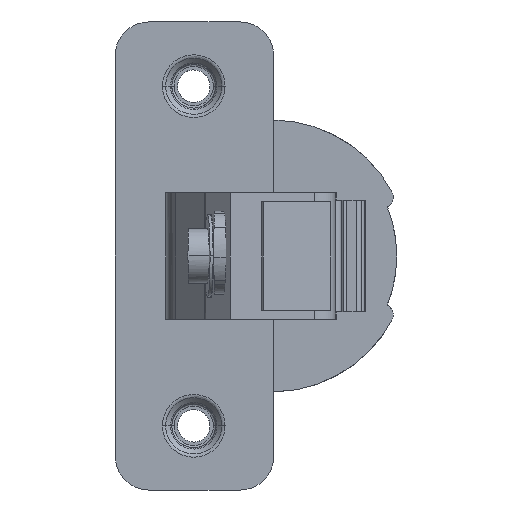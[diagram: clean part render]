
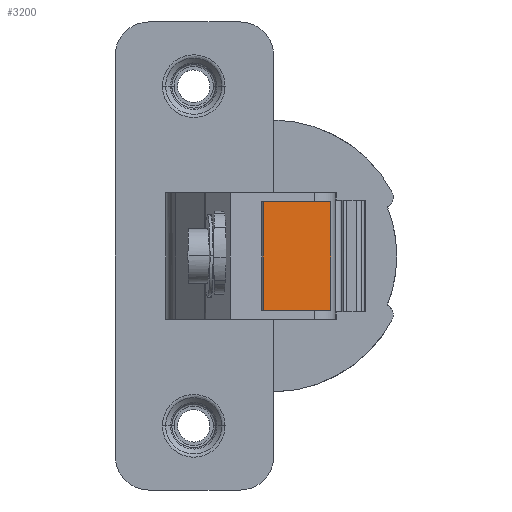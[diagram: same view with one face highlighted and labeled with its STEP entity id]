
A CAD part, left-side view. The second image highlights one B-rep face of the part: STEP entity #3200.
In plain terms, the highlighted planar face has unit normal (-0.994, -0.112, 0).
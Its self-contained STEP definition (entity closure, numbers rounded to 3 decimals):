
#128 = CARTESIAN_POINT ( 'NONE',  ( -32.741, 14.753, -7.2 ) ) ;
#235 = CARTESIAN_POINT ( 'NONE',  ( -31.739, 5.846, -2.4 ) ) ;
#332 = EDGE_CURVE ( 'NONE', #3905, #388, #3214, .T. ) ;
#388 = VERTEX_POINT ( 'NONE', #2730 ) ;
#527 = CARTESIAN_POINT ( 'NONE',  ( -32.741, 14.753, -2.4 ) ) ;
#645 = PLANE ( 'NONE',  #6585 ) ;
#704 = B_SPLINE_CURVE_WITH_KNOTS ( 'NONE', 3,
 ( #5759, #1566, #6817, #3659 ),
 .UNSPECIFIED., .F., .F.,
 ( 4, 4 ),
 ( 0., 1. ),
 .UNSPECIFIED. ) ;
#811 = CARTESIAN_POINT ( 'NONE',  ( -31.739, 5.846, 7.2 ) ) ;
#1064 = ORIENTED_EDGE ( 'NONE', *, *, #332, .T. ) ;
#1075 = ORIENTED_EDGE ( 'NONE', *, *, #1755, .T. ) ;
#1177 = DIRECTION ( 'NONE',  ( 0., 0., -1. ) ) ;
#1566 = CARTESIAN_POINT ( 'NONE',  ( -32.407, 11.784, 7.2 ) ) ;
#1755 = EDGE_CURVE ( 'NONE', #2463, #3905, #6352, .T. ) ;
#1977 = EDGE_CURVE ( 'NONE', #388, #5182, #6308, .T. ) ;
#2364 = CARTESIAN_POINT ( 'NONE',  ( -31.739, 5.846, 2.4 ) ) ;
#2463 = VERTEX_POINT ( 'NONE', #6740 ) ;
#2611 = CARTESIAN_POINT ( 'NONE',  ( -32.741, 14.753, 2.4 ) ) ;
#2716 = CARTESIAN_POINT ( 'NONE',  ( -31.739, 5.846, 7.2 ) ) ;
#2730 = CARTESIAN_POINT ( 'NONE',  ( -31.739, 5.846, -7.2 ) ) ;
#2849 = CARTESIAN_POINT ( 'NONE',  ( -31.739, 5.846, -7.2 ) ) ;
#2931 = EDGE_LOOP ( 'NONE', ( #4737, #1075, #1064, #4121 ) ) ;
#2933 = CARTESIAN_POINT ( 'NONE',  ( -32.741, 14.753, -7.2 ) ) ;
#3200 = ADVANCED_FACE ( 'NONE', ( #5561 ), #645, .F. ) ;
#3214 = B_SPLINE_CURVE_WITH_KNOTS ( 'NONE', 3,
 ( #2933, #4187, #3448, #4212 ),
 .UNSPECIFIED., .F., .F.,
 ( 4, 4 ),
 ( 0., 1. ),
 .UNSPECIFIED. ) ;
#3448 = CARTESIAN_POINT ( 'NONE',  ( -32.073, 8.815, -7.2 ) ) ;
#3659 = CARTESIAN_POINT ( 'NONE',  ( -31.739, 5.846, 7.2 ) ) ;
#3905 = VERTEX_POINT ( 'NONE', #128 ) ;
#4121 = ORIENTED_EDGE ( 'NONE', *, *, #1977, .T. ) ;
#4187 = CARTESIAN_POINT ( 'NONE',  ( -32.407, 11.784, -7.2 ) ) ;
#4211 = CARTESIAN_POINT ( 'NONE',  ( -32.741, 14.753, -7.2 ) ) ;
#4212 = CARTESIAN_POINT ( 'NONE',  ( -31.739, 5.846, -7.2 ) ) ;
#4316 = DIRECTION ( 'NONE',  ( 0.994, 0.112, 0. ) ) ;
#4737 = ORIENTED_EDGE ( 'NONE', *, *, #6679, .F. ) ;
#5182 = VERTEX_POINT ( 'NONE', #811 ) ;
#5561 = FACE_OUTER_BOUND ( 'NONE', #2931, .T. ) ;
#5759 = CARTESIAN_POINT ( 'NONE',  ( -32.741, 14.753, 7.2 ) ) ;
#6039 = CARTESIAN_POINT ( 'NONE',  ( -31.739, 5.846, 7.2 ) ) ;
#6294 = CARTESIAN_POINT ( 'NONE',  ( -32.741, 14.753, 7.2 ) ) ;
#6308 = B_SPLINE_CURVE_WITH_KNOTS ( 'NONE', 3,
 ( #2849, #235, #2364, #6039 ),
 .UNSPECIFIED., .F., .F.,
 ( 4, 4 ),
 ( 0., 1. ),
 .UNSPECIFIED. ) ;
#6352 = B_SPLINE_CURVE_WITH_KNOTS ( 'NONE', 3,
 ( #6294, #2611, #527, #4211 ),
 .UNSPECIFIED., .F., .F.,
 ( 4, 4 ),
 ( 0., 1. ),
 .UNSPECIFIED. ) ;
#6585 = AXIS2_PLACEMENT_3D ( 'NONE', #2716, #4316, #1177 ) ;
#6679 = EDGE_CURVE ( 'NONE', #2463, #5182, #704, .T. ) ;
#6740 = CARTESIAN_POINT ( 'NONE',  ( -32.741, 14.753, 7.2 ) ) ;
#6817 = CARTESIAN_POINT ( 'NONE',  ( -32.073, 8.815, 7.2 ) ) ;
